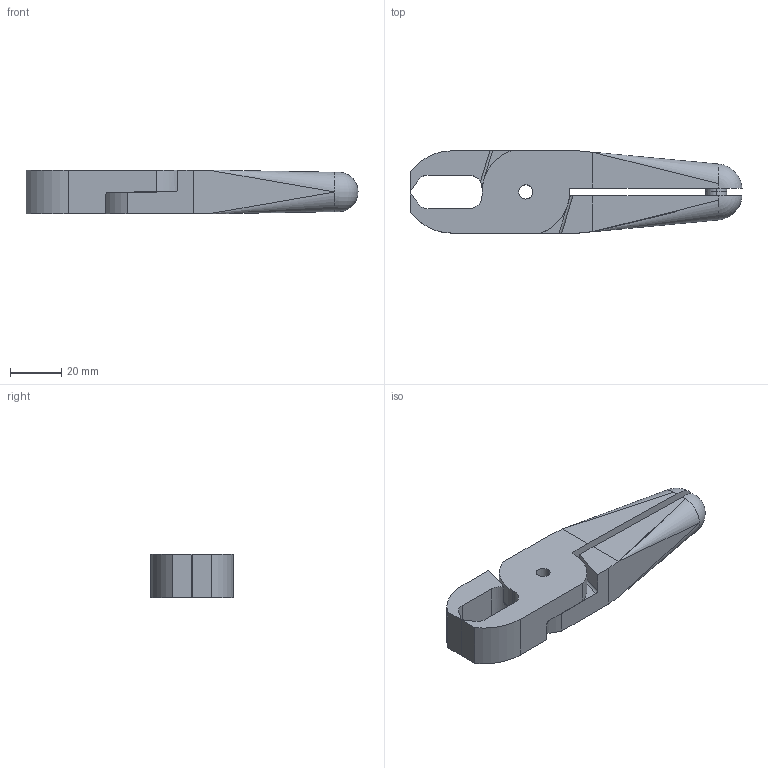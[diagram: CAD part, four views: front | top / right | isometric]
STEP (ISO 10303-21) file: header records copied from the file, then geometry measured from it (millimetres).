
FILE_DESCRIPTION (( 'STEP AP214' ), '1' );
FILE_NAME ('N30AE.STEP', '2019-11-29T03:59:20', ( '微软用户' ), ( '微软中国' ), 'SwSTEP 2.0', 'SolidWorks 2016', '' );
FILE_SCHEMA (( 'AUTOMOTIVE_DESIGN' ));
Length unit declared in the file: millimetre
Products named in the file (1): N30AE
Bounding box: 129 x 32 x 17 mm (x, y, z)
Surface area: 16657.6 mm2 (no closed solid volume)
Topology: 0 solids, 3 shells, 60 faces, 184 edges, 118 vertices
Faces by surface type: plane 34, cylinder 17, bspline 9
Entity records: 6153 total; most frequent: CARTESIAN_POINT 4306, ORIENTED_EDGE 336, DIRECTION 274, EDGE_CURVE 176, VERTEX_POINT 118, LINE 106, VECTOR 106, AXIS2_PLACEMENT_3D 84
